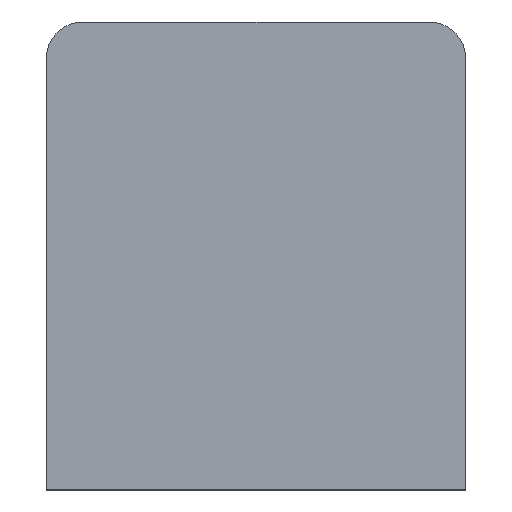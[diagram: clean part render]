
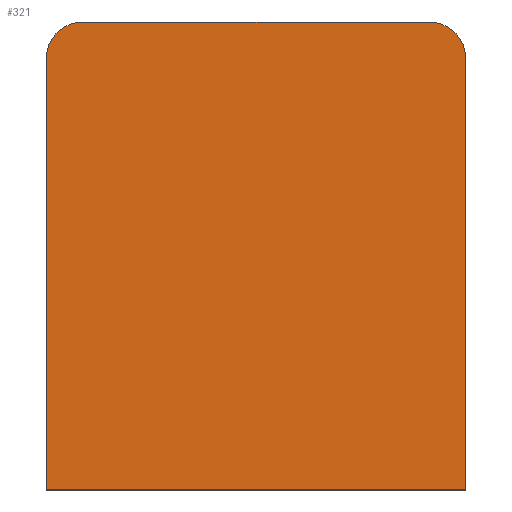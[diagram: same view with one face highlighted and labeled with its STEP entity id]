
A CAD part, top view. The second image highlights one B-rep face of the part: STEP entity #321.
In plain terms, the highlighted planar face has unit normal (0, 0, 1).
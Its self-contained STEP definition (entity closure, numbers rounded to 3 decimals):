
#32 = PLANE('',#33);
#33 = AXIS2_PLACEMENT_3D('',#34,#35,#36);
#34 = CARTESIAN_POINT('',(-28.75,32.7,-9.9));
#35 = DIRECTION('',(-1.,0.,0.));
#36 = DIRECTION('',(0.,1.,0.));
#57 = VERTEX_POINT('',#58);
#58 = CARTESIAN_POINT('',(-28.75,49.08,-7.9));
#72 = PLANE('',#73);
#73 = AXIS2_PLACEMENT_3D('',#74,#75,#76);
#74 = CARTESIAN_POINT('',(-29.,49.08,-10.));
#75 = DIRECTION('',(-0.,1.,0.));
#76 = DIRECTION('',(0.,0.,1.));
#84 = EDGE_CURVE('',#57,#85,#87,.T.);
#85 = VERTEX_POINT('',#86);
#86 = CARTESIAN_POINT('',(-28.75,57.3,-7.9));
#87 = SURFACE_CURVE('',#88,(#92,#99),.PCURVE_S1.);
#88 = LINE('',#89,#90);
#89 = CARTESIAN_POINT('',(-28.75,45.,-7.9));
#90 = VECTOR('',#91,1.);
#91 = DIRECTION('',(0.,1.,0.));
#92 = PCURVE('',#32,#93);
#93 = DEFINITIONAL_REPRESENTATION('',(#94),#98);
#94 = LINE('',#95,#96);
#95 = CARTESIAN_POINT('',(12.3,-2.));
#96 = VECTOR('',#97,1.);
#97 = DIRECTION('',(1.,0.));
#98 = ( GEOMETRIC_REPRESENTATION_CONTEXT(2) 
PARAMETRIC_REPRESENTATION_CONTEXT() REPRESENTATION_CONTEXT('2D SPACE',''
  ) );
#99 = PCURVE('',#100,#105);
#100 = PLANE('',#101);
#101 = AXIS2_PLACEMENT_3D('',#102,#103,#104);
#102 = CARTESIAN_POINT('',(-24.75,45.,-7.9));
#103 = DIRECTION('',(0.,0.,1.));
#104 = DIRECTION('',(1.,0.,-0.));
#105 = DEFINITIONAL_REPRESENTATION('',(#106),#110);
#106 = LINE('',#107,#108);
#107 = CARTESIAN_POINT('',(-4.,0.));
#108 = VECTOR('',#109,1.);
#109 = DIRECTION('',(0.,1.));
#110 = ( GEOMETRIC_REPRESENTATION_CONTEXT(2) 
PARAMETRIC_REPRESENTATION_CONTEXT() REPRESENTATION_CONTEXT('2D SPACE',''
  ) );
#126 = CYLINDRICAL_SURFACE('',#127,0.7);
#127 = AXIS2_PLACEMENT_3D('',#128,#129,#130);
#128 = CARTESIAN_POINT('',(-28.05,57.3,-9.9));
#129 = DIRECTION('',(-0.,-0.,-1.));
#130 = DIRECTION('',(1.,0.,0.));
#181 = PLANE('',#182);
#182 = AXIS2_PLACEMENT_3D('',#183,#184,#185);
#183 = CARTESIAN_POINT('',(-20.75,32.7,-9.9));
#184 = DIRECTION('',(-1.,0.,0.));
#185 = DIRECTION('',(0.,1.,0.));
#210 = CYLINDRICAL_SURFACE('',#211,0.7);
#211 = AXIS2_PLACEMENT_3D('',#212,#213,#214);
#212 = CARTESIAN_POINT('',(-21.45,57.3,-9.9));
#213 = DIRECTION('',(-0.,-0.,-1.));
#214 = DIRECTION('',(1.,0.,0.));
#238 = PLANE('',#239);
#239 = AXIS2_PLACEMENT_3D('',#240,#241,#242);
#240 = CARTESIAN_POINT('',(-28.05,58.,-9.9));
#241 = DIRECTION('',(0.,1.,0.));
#242 = DIRECTION('',(1.,0.,0.));
#277 = EDGE_CURVE('',#278,#85,#280,.T.);
#278 = VERTEX_POINT('',#279);
#279 = CARTESIAN_POINT('',(-28.05,58.,-7.9));
#280 = SURFACE_CURVE('',#281,(#286,#293),.PCURVE_S1.);
#281 = CIRCLE('',#282,0.7);
#282 = AXIS2_PLACEMENT_3D('',#283,#284,#285);
#283 = CARTESIAN_POINT('',(-28.05,57.3,-7.9));
#284 = DIRECTION('',(0.,0.,1.));
#285 = DIRECTION('',(1.,0.,-0.));
#286 = PCURVE('',#126,#287);
#287 = DEFINITIONAL_REPRESENTATION('',(#288),#292);
#288 = LINE('',#289,#290);
#289 = CARTESIAN_POINT('',(6.283,-2.));
#290 = VECTOR('',#291,1.);
#291 = DIRECTION('',(-1.,0.));
#292 = ( GEOMETRIC_REPRESENTATION_CONTEXT(2) 
PARAMETRIC_REPRESENTATION_CONTEXT() REPRESENTATION_CONTEXT('2D SPACE',''
  ) );
#293 = PCURVE('',#100,#294);
#294 = DEFINITIONAL_REPRESENTATION('',(#295),#299);
#295 = CIRCLE('',#296,0.7);
#296 = AXIS2_PLACEMENT_2D('',#297,#298);
#297 = CARTESIAN_POINT('',(-3.3,12.3));
#298 = DIRECTION('',(1.,0.));
#299 = ( GEOMETRIC_REPRESENTATION_CONTEXT(2) 
PARAMETRIC_REPRESENTATION_CONTEXT() REPRESENTATION_CONTEXT('2D SPACE',''
  ) );
#321 = ADVANCED_FACE('',(#322),#100,.T.);
#322 = FACE_BOUND('',#323,.T.);
#323 = EDGE_LOOP('',(#324,#325,#348,#371,#395,#416));
#324 = ORIENTED_EDGE('',*,*,#84,.F.);
#325 = ORIENTED_EDGE('',*,*,#326,.F.);
#326 = EDGE_CURVE('',#327,#57,#329,.T.);
#327 = VERTEX_POINT('',#328);
#328 = CARTESIAN_POINT('',(-20.75,49.08,-7.9));
#329 = SURFACE_CURVE('',#330,(#334,#341),.PCURVE_S1.);
#330 = LINE('',#331,#332);
#331 = CARTESIAN_POINT('',(-26.875,49.08,-7.9));
#332 = VECTOR('',#333,1.);
#333 = DIRECTION('',(-1.,-0.,0.));
#334 = PCURVE('',#100,#335);
#335 = DEFINITIONAL_REPRESENTATION('',(#336),#340);
#336 = LINE('',#337,#338);
#337 = CARTESIAN_POINT('',(-2.125,4.08));
#338 = VECTOR('',#339,1.);
#339 = DIRECTION('',(-1.,0.));
#340 = ( GEOMETRIC_REPRESENTATION_CONTEXT(2) 
PARAMETRIC_REPRESENTATION_CONTEXT() REPRESENTATION_CONTEXT('2D SPACE',''
  ) );
#341 = PCURVE('',#72,#342);
#342 = DEFINITIONAL_REPRESENTATION('',(#343),#347);
#343 = LINE('',#344,#345);
#344 = CARTESIAN_POINT('',(2.1,2.125));
#345 = VECTOR('',#346,1.);
#346 = DIRECTION('',(0.,-1.));
#347 = ( GEOMETRIC_REPRESENTATION_CONTEXT(2) 
PARAMETRIC_REPRESENTATION_CONTEXT() REPRESENTATION_CONTEXT('2D SPACE',''
  ) );
#348 = ORIENTED_EDGE('',*,*,#349,.T.);
#349 = EDGE_CURVE('',#327,#350,#352,.T.);
#350 = VERTEX_POINT('',#351);
#351 = CARTESIAN_POINT('',(-20.75,57.3,-7.9));
#352 = SURFACE_CURVE('',#353,(#357,#364),.PCURVE_S1.);
#353 = LINE('',#354,#355);
#354 = CARTESIAN_POINT('',(-20.75,45.,-7.9));
#355 = VECTOR('',#356,1.);
#356 = DIRECTION('',(0.,1.,0.));
#357 = PCURVE('',#100,#358);
#358 = DEFINITIONAL_REPRESENTATION('',(#359),#363);
#359 = LINE('',#360,#361);
#360 = CARTESIAN_POINT('',(4.,0.));
#361 = VECTOR('',#362,1.);
#362 = DIRECTION('',(0.,1.));
#363 = ( GEOMETRIC_REPRESENTATION_CONTEXT(2) 
PARAMETRIC_REPRESENTATION_CONTEXT() REPRESENTATION_CONTEXT('2D SPACE',''
  ) );
#364 = PCURVE('',#181,#365);
#365 = DEFINITIONAL_REPRESENTATION('',(#366),#370);
#366 = LINE('',#367,#368);
#367 = CARTESIAN_POINT('',(12.3,-2.));
#368 = VECTOR('',#369,1.);
#369 = DIRECTION('',(1.,0.));
#370 = ( GEOMETRIC_REPRESENTATION_CONTEXT(2) 
PARAMETRIC_REPRESENTATION_CONTEXT() REPRESENTATION_CONTEXT('2D SPACE',''
  ) );
#371 = ORIENTED_EDGE('',*,*,#372,.T.);
#372 = EDGE_CURVE('',#350,#373,#375,.T.);
#373 = VERTEX_POINT('',#374);
#374 = CARTESIAN_POINT('',(-21.45,58.,-7.9));
#375 = SURFACE_CURVE('',#376,(#381,#388),.PCURVE_S1.);
#376 = CIRCLE('',#377,0.7);
#377 = AXIS2_PLACEMENT_3D('',#378,#379,#380);
#378 = CARTESIAN_POINT('',(-21.45,57.3,-7.9));
#379 = DIRECTION('',(0.,0.,1.));
#380 = DIRECTION('',(1.,0.,-0.));
#381 = PCURVE('',#100,#382);
#382 = DEFINITIONAL_REPRESENTATION('',(#383),#387);
#383 = CIRCLE('',#384,0.7);
#384 = AXIS2_PLACEMENT_2D('',#385,#386);
#385 = CARTESIAN_POINT('',(3.3,12.3));
#386 = DIRECTION('',(1.,0.));
#387 = ( GEOMETRIC_REPRESENTATION_CONTEXT(2) 
PARAMETRIC_REPRESENTATION_CONTEXT() REPRESENTATION_CONTEXT('2D SPACE',''
  ) );
#388 = PCURVE('',#210,#389);
#389 = DEFINITIONAL_REPRESENTATION('',(#390),#394);
#390 = LINE('',#391,#392);
#391 = CARTESIAN_POINT('',(6.283,-2.));
#392 = VECTOR('',#393,1.);
#393 = DIRECTION('',(-1.,0.));
#394 = ( GEOMETRIC_REPRESENTATION_CONTEXT(2) 
PARAMETRIC_REPRESENTATION_CONTEXT() REPRESENTATION_CONTEXT('2D SPACE',''
  ) );
#395 = ORIENTED_EDGE('',*,*,#396,.F.);
#396 = EDGE_CURVE('',#278,#373,#397,.T.);
#397 = SURFACE_CURVE('',#398,(#402,#409),.PCURVE_S1.);
#398 = LINE('',#399,#400);
#399 = CARTESIAN_POINT('',(-24.75,58.,-7.9));
#400 = VECTOR('',#401,1.);
#401 = DIRECTION('',(1.,0.,0.));
#402 = PCURVE('',#100,#403);
#403 = DEFINITIONAL_REPRESENTATION('',(#404),#408);
#404 = LINE('',#405,#406);
#405 = CARTESIAN_POINT('',(0.,13.));
#406 = VECTOR('',#407,1.);
#407 = DIRECTION('',(1.,0.));
#408 = ( GEOMETRIC_REPRESENTATION_CONTEXT(2) 
PARAMETRIC_REPRESENTATION_CONTEXT() REPRESENTATION_CONTEXT('2D SPACE',''
  ) );
#409 = PCURVE('',#238,#410);
#410 = DEFINITIONAL_REPRESENTATION('',(#411),#415);
#411 = LINE('',#412,#413);
#412 = CARTESIAN_POINT('',(3.3,-2.));
#413 = VECTOR('',#414,1.);
#414 = DIRECTION('',(1.,0.));
#415 = ( GEOMETRIC_REPRESENTATION_CONTEXT(2) 
PARAMETRIC_REPRESENTATION_CONTEXT() REPRESENTATION_CONTEXT('2D SPACE',''
  ) );
#416 = ORIENTED_EDGE('',*,*,#277,.T.);
